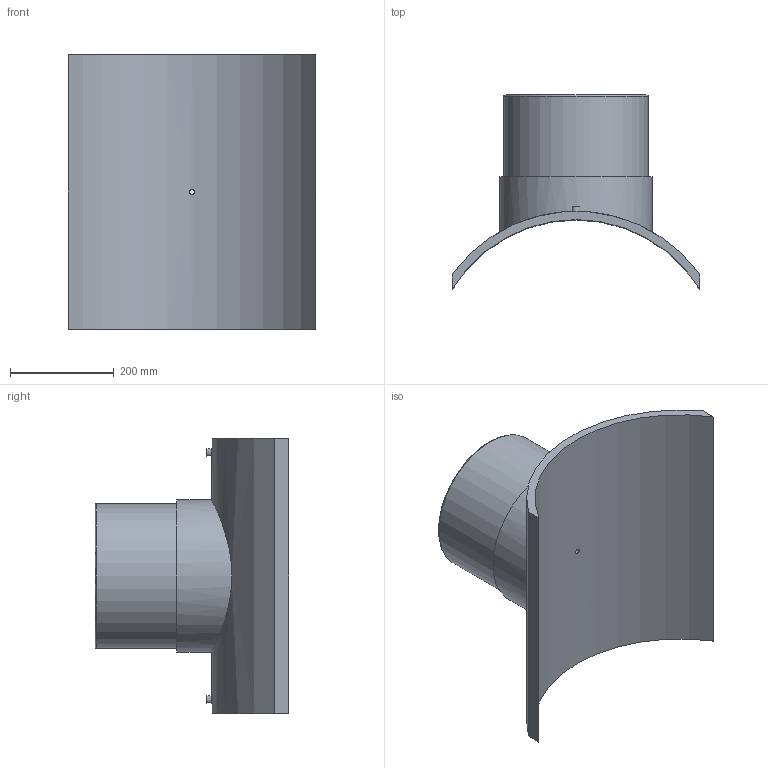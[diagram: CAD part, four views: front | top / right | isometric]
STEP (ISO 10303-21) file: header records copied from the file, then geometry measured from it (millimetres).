
FILE_DESCRIPTION(/* description */ ('PLASSON BRANCH SADDLE 560x280'),/* implementation_level */ '2;1');
FILE_NAME(/* name */ 'C:\Dropbox\KIMPROJECTS-Inventor 2019\99-16-3568-Processing\ElectroFusion Fittings\495803\stp\495803560280T.stp',/* time_stamp */ '2024-04-04T11:52:59+02:00',/* author */ ('KIM'),/* organization */ (''),/* preprocessor_version */ 'ST-DEVELOPER v17.2',/* originating_system */ 'Autodesk Inventor 2019',/* authorisation */ '');
FILE_SCHEMA (('AUTOMOTIVE_DESIGN { 1 0 10303 214 3 1 1 }','FEATURE_BASED_PROCESS_PLANNING'));
Length unit declared in the file: millimetre
Products named in the file (1): 495803560280T
Bounding box: 477 x 374.31 x 530 mm (x, y, z)
Volume: 10621374.4 mm3; surface area: 1037377.9 mm2
Topology: 1 solids, 1 shells, 29 faces, 60 edges, 43 vertices
Faces by surface type: plane 13, cylinder 12, torus 2, cone 2
Full cylindrical faces by diameter (mm): 4 x2, 9.6 x1, 10 x2, 16 x1, 224 x1, 280 x1, 294 x1
Entity records: 1094 total; most frequent: CARTESIAN_POINT 408, DIRECTION 139, ORIENTED_EDGE 120, EDGE_CURVE 60, AXIS2_PLACEMENT_3D 60, VERTEX_POINT 43, EDGE_LOOP 41, CIRCLE 30
